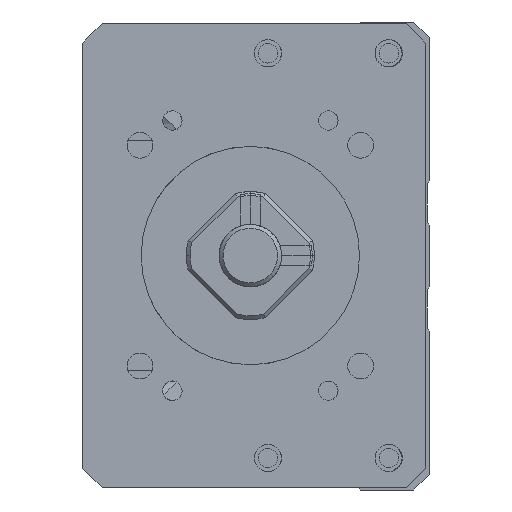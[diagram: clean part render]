
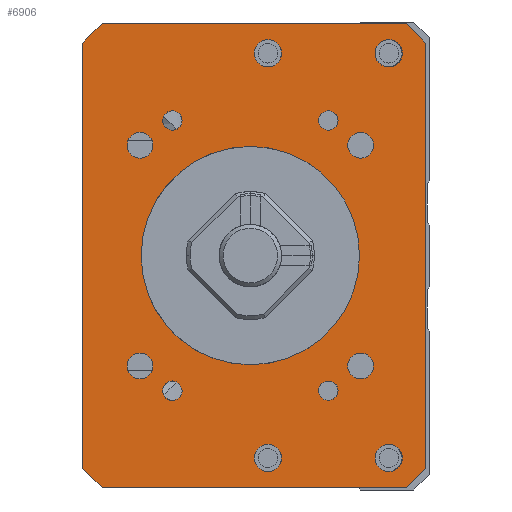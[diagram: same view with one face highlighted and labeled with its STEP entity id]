
A CAD part, left-side view. The second image highlights one B-rep face of the part: STEP entity #6906.
In plain terms, the highlighted planar face has unit normal (-1, 0, 0).
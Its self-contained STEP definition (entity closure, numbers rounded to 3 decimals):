
#4626=LINE('',#22270,#5485);
#4628=LINE('',#22294,#5487);
#4629=LINE('',#22296,#5488);
#4630=LINE('',#22298,#5489);
#4631=LINE('',#22300,#5490);
#4632=LINE('',#22302,#5491);
#4633=LINE('',#22304,#5492);
#4634=LINE('',#22306,#5493);
#5485=VECTOR('',#18389,1.);
#5487=VECTOR('',#18413,1.);
#5488=VECTOR('',#18414,1.);
#5489=VECTOR('',#18415,1.);
#5490=VECTOR('',#18416,1.);
#5491=VECTOR('',#18417,1.);
#5492=VECTOR('',#18418,1.);
#5493=VECTOR('',#18419,1.);
#6234=FACE_BOUND('',#8648,.T.);
#6235=FACE_BOUND('',#8649,.T.);
#6236=FACE_BOUND('',#8650,.T.);
#6237=FACE_BOUND('',#8651,.T.);
#6238=FACE_BOUND('',#8652,.T.);
#6239=FACE_BOUND('',#8653,.T.);
#6240=FACE_BOUND('',#8654,.T.);
#6241=FACE_BOUND('',#8655,.T.);
#6242=FACE_BOUND('',#8656,.T.);
#6243=FACE_BOUND('',#8657,.T.);
#6244=FACE_BOUND('',#8658,.T.);
#6245=FACE_BOUND('',#8659,.T.);
#6246=FACE_BOUND('',#8660,.T.);
#6247=FACE_BOUND('',#8661,.T.);
#6906=ADVANCED_FACE('',(#6234,#6235,#6236,#6237,#6238,#6239,#6240,#6241,
#6242,#6243,#6244,#6245,#6246,#6247),#7425,.F.);
#7425=PLANE('',#15790);
#8648=EDGE_LOOP('',(#11056));
#8649=EDGE_LOOP('',(#11057));
#8650=EDGE_LOOP('',(#11058));
#8651=EDGE_LOOP('',(#11059));
#8652=EDGE_LOOP('',(#11060));
#8653=EDGE_LOOP('',(#11061));
#8654=EDGE_LOOP('',(#11062));
#8655=EDGE_LOOP('',(#11063));
#8656=EDGE_LOOP('',(#11064));
#8657=EDGE_LOOP('',(#11065,#11066,#11067,#11068,#11069,#11070,#11071,#11072));
#8658=EDGE_LOOP('',(#11073));
#8659=EDGE_LOOP('',(#11074));
#8660=EDGE_LOOP('',(#11075));
#8661=EDGE_LOOP('',(#11076));
#11056=ORIENTED_EDGE('',*,*,#14106,.F.);
#11057=ORIENTED_EDGE('',*,*,#14107,.F.);
#11058=ORIENTED_EDGE('',*,*,#14108,.F.);
#11059=ORIENTED_EDGE('',*,*,#14109,.F.);
#11060=ORIENTED_EDGE('',*,*,#14110,.F.);
#11061=ORIENTED_EDGE('',*,*,#14111,.T.);
#11062=ORIENTED_EDGE('',*,*,#14112,.F.);
#11063=ORIENTED_EDGE('',*,*,#14113,.F.);
#11064=ORIENTED_EDGE('',*,*,#14114,.F.);
#11065=ORIENTED_EDGE('',*,*,#14103,.T.);
#11066=ORIENTED_EDGE('',*,*,#14115,.T.);
#11067=ORIENTED_EDGE('',*,*,#14116,.F.);
#11068=ORIENTED_EDGE('',*,*,#14117,.T.);
#11069=ORIENTED_EDGE('',*,*,#14118,.F.);
#11070=ORIENTED_EDGE('',*,*,#14119,.T.);
#11071=ORIENTED_EDGE('',*,*,#14120,.T.);
#11072=ORIENTED_EDGE('',*,*,#14121,.T.);
#11073=ORIENTED_EDGE('',*,*,#14122,.F.);
#11074=ORIENTED_EDGE('',*,*,#14123,.F.);
#11075=ORIENTED_EDGE('',*,*,#14124,.F.);
#11076=ORIENTED_EDGE('',*,*,#14083,.F.);
#12715=VERTEX_POINT('',#22209);
#12735=VERTEX_POINT('',#22269);
#12736=VERTEX_POINT('',#22271);
#12738=VERTEX_POINT('',#22277);
#12739=VERTEX_POINT('',#22279);
#12740=VERTEX_POINT('',#22281);
#12741=VERTEX_POINT('',#22283);
#12742=VERTEX_POINT('',#22285);
#12743=VERTEX_POINT('',#22287);
#12744=VERTEX_POINT('',#22289);
#12745=VERTEX_POINT('',#22291);
#12746=VERTEX_POINT('',#22293);
#12747=VERTEX_POINT('',#22295);
#12748=VERTEX_POINT('',#22297);
#12749=VERTEX_POINT('',#22299);
#12750=VERTEX_POINT('',#22301);
#12751=VERTEX_POINT('',#22303);
#12752=VERTEX_POINT('',#22305);
#12753=VERTEX_POINT('',#22308);
#12754=VERTEX_POINT('',#22310);
#12755=VERTEX_POINT('',#22312);
#14083=EDGE_CURVE('',#12715,#12715,#14824,.T.);
#14103=EDGE_CURVE('',#12736,#12735,#4626,.T.);
#14106=EDGE_CURVE('',#12738,#12738,#14833,.T.);
#14107=EDGE_CURVE('',#12739,#12739,#14834,.T.);
#14108=EDGE_CURVE('',#12740,#12740,#14835,.T.);
#14109=EDGE_CURVE('',#12741,#12741,#14836,.T.);
#14110=EDGE_CURVE('',#12742,#12742,#14837,.T.);
#14111=EDGE_CURVE('',#12743,#12743,#14838,.T.);
#14112=EDGE_CURVE('',#12744,#12744,#14839,.T.);
#14113=EDGE_CURVE('',#12745,#12745,#14840,.T.);
#14114=EDGE_CURVE('',#12746,#12746,#14841,.T.);
#14115=EDGE_CURVE('',#12735,#12747,#4628,.T.);
#14116=EDGE_CURVE('',#12748,#12747,#4629,.T.);
#14117=EDGE_CURVE('',#12748,#12749,#4630,.T.);
#14118=EDGE_CURVE('',#12750,#12749,#4631,.T.);
#14119=EDGE_CURVE('',#12750,#12751,#4632,.T.);
#14120=EDGE_CURVE('',#12751,#12752,#4633,.T.);
#14121=EDGE_CURVE('',#12752,#12736,#4634,.T.);
#14122=EDGE_CURVE('',#12753,#12753,#14842,.T.);
#14123=EDGE_CURVE('',#12754,#12754,#14843,.T.);
#14124=EDGE_CURVE('',#12755,#12755,#14844,.T.);
#14824=CIRCLE('',#15767,14.);
#14833=CIRCLE('',#15778,1.65);
#14834=CIRCLE('',#15779,1.65);
#14835=CIRCLE('',#15780,1.65);
#14836=CIRCLE('',#15781,1.65);
#14837=CIRCLE('',#15782,1.25);
#14838=CIRCLE('',#15783,1.75);
#14839=CIRCLE('',#15784,1.25);
#14840=CIRCLE('',#15785,1.75);
#14841=CIRCLE('',#15786,1.25);
#14842=CIRCLE('',#15787,1.75);
#14843=CIRCLE('',#15788,1.75);
#14844=CIRCLE('',#15789,1.25);
#15767=AXIS2_PLACEMENT_3D('',#22208,#18363,#18364);
#15778=AXIS2_PLACEMENT_3D('',#22276,#18395,#18396);
#15779=AXIS2_PLACEMENT_3D('',#22278,#18397,#18398);
#15780=AXIS2_PLACEMENT_3D('',#22280,#18399,#18400);
#15781=AXIS2_PLACEMENT_3D('',#22282,#18401,#18402);
#15782=AXIS2_PLACEMENT_3D('',#22284,#18403,#18404);
#15783=AXIS2_PLACEMENT_3D('',#22286,#18405,#18406);
#15784=AXIS2_PLACEMENT_3D('',#22288,#18407,#18408);
#15785=AXIS2_PLACEMENT_3D('',#22290,#18409,#18410);
#15786=AXIS2_PLACEMENT_3D('',#22292,#18411,#18412);
#15787=AXIS2_PLACEMENT_3D('',#22307,#18420,#18421);
#15788=AXIS2_PLACEMENT_3D('',#22309,#18422,#18423);
#15789=AXIS2_PLACEMENT_3D('',#22311,#18424,#18425);
#15790=AXIS2_PLACEMENT_3D('',#22313,#18426,#18427);
#18363=DIRECTION('',(-1.,0.,0.));
#18364=DIRECTION('',(0.,1.,0.));
#18389=DIRECTION('',(0.,0.,-1.));
#18395=DIRECTION('',(-1.,0.,0.));
#18396=DIRECTION('',(0.,0.,1.));
#18397=DIRECTION('',(-1.,0.,0.));
#18398=DIRECTION('',(0.,0.,1.));
#18399=DIRECTION('',(-1.,0.,0.));
#18400=DIRECTION('',(0.,0.,1.));
#18401=DIRECTION('',(-1.,0.,0.));
#18402=DIRECTION('',(0.,0.,1.));
#18403=DIRECTION('',(-1.,0.,0.));
#18404=DIRECTION('',(0.,1.,0.));
#18405=DIRECTION('',(1.,0.,0.));
#18406=DIRECTION('',(0.,0.,1.));
#18407=DIRECTION('',(-1.,0.,0.));
#18408=DIRECTION('',(0.,1.,0.));
#18409=DIRECTION('',(-1.,0.,0.));
#18410=DIRECTION('',(0.,0.,1.));
#18411=DIRECTION('',(-1.,0.,0.));
#18412=DIRECTION('',(0.,1.,0.));
#18413=DIRECTION('',(0.,-0.707,-0.707));
#18414=DIRECTION('',(0.,1.,0.));
#18415=DIRECTION('',(0.,-0.707,0.707));
#18416=DIRECTION('',(0.,0.,-1.));
#18417=DIRECTION('',(0.,0.707,0.707));
#18418=DIRECTION('',(0.,1.,0.));
#18419=DIRECTION('',(0.,0.707,-0.707));
#18420=DIRECTION('',(-1.,0.,0.));
#18421=DIRECTION('',(0.,0.,1.));
#18422=DIRECTION('',(-1.,0.,0.));
#18423=DIRECTION('',(0.,0.,1.));
#18424=DIRECTION('',(-1.,0.,0.));
#18425=DIRECTION('',(0.,1.,0.));
#18426=DIRECTION('',(1.,0.,0.));
#18427=DIRECTION('',(0.,1.,0.));
#22208=CARTESIAN_POINT('',(-211.,0.,0.));
#22209=CARTESIAN_POINT('',(-211.,14.,0.));
#22269=CARTESIAN_POINT('',(-211.,21.499,-27.25));
#22270=CARTESIAN_POINT('',(-211.,21.499,29.75));
#22271=CARTESIAN_POINT('',(-211.,21.499,27.25));
#22276=CARTESIAN_POINT('',(-211.,14.142,14.142));
#22277=CARTESIAN_POINT('',(-211.,14.142,15.792));
#22278=CARTESIAN_POINT('',(-211.,-14.142,14.142));
#22279=CARTESIAN_POINT('',(-211.,-14.142,15.792));
#22280=CARTESIAN_POINT('',(-211.,14.142,-14.142));
#22281=CARTESIAN_POINT('',(-211.,14.142,-12.492));
#22282=CARTESIAN_POINT('',(-211.,-14.142,-14.142));
#22283=CARTESIAN_POINT('',(-211.,-14.142,-12.492));
#22284=CARTESIAN_POINT('',(-211.,-10.,-17.321));
#22285=CARTESIAN_POINT('',(-211.,-8.75,-17.321));
#22286=CARTESIAN_POINT('',(-211.,-2.25,-25.936));
#22287=CARTESIAN_POINT('',(-211.,-2.25,-24.186));
#22288=CARTESIAN_POINT('',(-211.,10.,17.321));
#22289=CARTESIAN_POINT('',(-211.,11.25,17.321));
#22290=CARTESIAN_POINT('',(-211.,-2.25,25.936));
#22291=CARTESIAN_POINT('',(-211.,-2.25,27.686));
#22292=CARTESIAN_POINT('',(-211.,10.,-17.321));
#22293=CARTESIAN_POINT('',(-211.,11.25,-17.321));
#22294=CARTESIAN_POINT('',(-211.,18.999,-29.75));
#22295=CARTESIAN_POINT('',(-211.,18.999,-29.75));
#22296=CARTESIAN_POINT('',(-211.,-22.501,-29.75));
#22297=CARTESIAN_POINT('',(-211.,-20.001,-29.75));
#22298=CARTESIAN_POINT('',(-211.,-22.501,-27.25));
#22299=CARTESIAN_POINT('',(-211.,-22.501,-27.25));
#22300=CARTESIAN_POINT('',(-211.,-22.501,29.75));
#22301=CARTESIAN_POINT('',(-211.,-22.501,27.25));
#22302=CARTESIAN_POINT('',(-211.,-22.501,27.25));
#22303=CARTESIAN_POINT('',(-211.,-20.001,29.75));
#22304=CARTESIAN_POINT('',(-211.,-22.501,29.75));
#22305=CARTESIAN_POINT('',(-211.,18.999,29.75));
#22306=CARTESIAN_POINT('',(-211.,18.999,29.75));
#22307=CARTESIAN_POINT('',(-211.,-17.75,25.936));
#22308=CARTESIAN_POINT('',(-211.,-17.75,27.686));
#22309=CARTESIAN_POINT('',(-211.,-17.75,-25.936));
#22310=CARTESIAN_POINT('',(-211.,-17.75,-24.186));
#22311=CARTESIAN_POINT('',(-211.,-10.,17.321));
#22312=CARTESIAN_POINT('',(-211.,-8.75,17.321));
#22313=CARTESIAN_POINT('',(-211.,-22.501,29.75));
